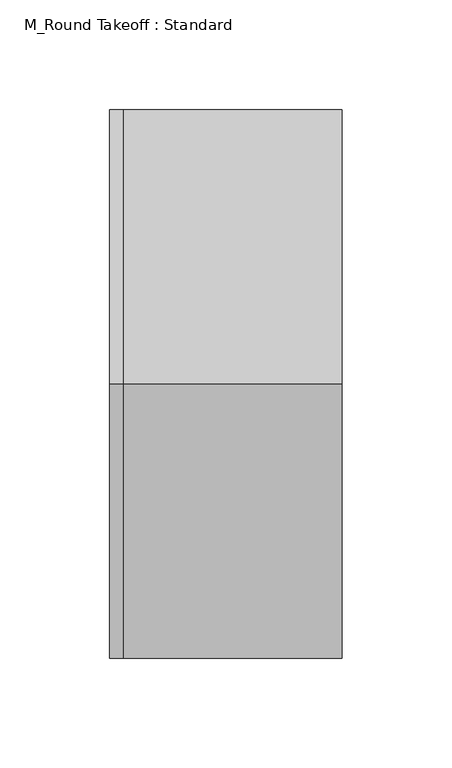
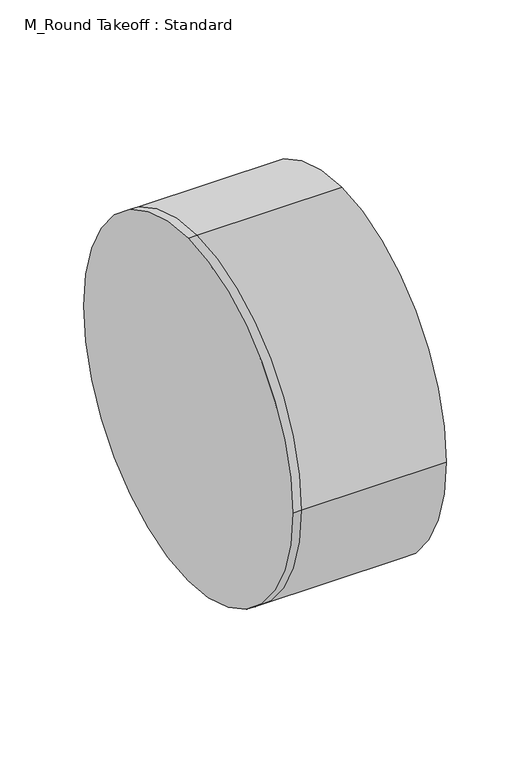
"""IFC4 building model written with IfcOpenShell, lengths in millimetres: duct fitting geometry, M_Round Takeoff : Standard."""

from ifc_helpers import new_model, si_unit, frame, origin, place, context, project, spatial, circle_curve, source, transform, mapped, element, save
from ifc_brep_helpers import plane_surface, cylinder_surface, advanced_brep


def m_round_takeoff_standard_e5a0bf09(model_context):
    return source(origin(), model_context, "Body", "AdvancedBrep", [
        advanced_brep(
        [(-6.0966674, 0.0, 125.0), (-6.0966674, 125.0, 0.0), (-6.0966674, 0.0, -125.0), (-6.0966674, -125.0, 0.0), (0.0, 0.0, 125.0), (0.0, 125.0, 0.0), (0.0, 0.0, -125.0), (0.0, -125.0, 0.0), (100.0006674, 0.0, 125.0), (100.0006674, -125.0, 0.0), (100.0006674, 0.0, -125.0), (100.0006674, 125.0, 0.0)],
        [
            (0, 1, circle_curve(frame((-6.0966674, 0.0, 0.0), z_axis=(-1.0, 0.0, 0.0), x_axis=(0.0, 1.0, 0.0)), 125.0)),
            (1, 2, circle_curve(frame((-6.0966674, 0.0, 0.0), z_axis=(-1.0, 0.0, 0.0), x_axis=(0.0, 1.0, 0.0)), 125.0)),
            (2, 3, circle_curve(frame((-6.0966674, 0.0, 0.0), z_axis=(-1.0, 0.0, 0.0), x_axis=(0.0, 1.0, 0.0)), 125.0)),
            (3, 0, circle_curve(frame((-6.0966674, 0.0, 0.0), z_axis=(-1.0, 0.0, 0.0), x_axis=(0.0, 1.0, 0.0)), 125.0)),
            (0, 4),
            (4, 5, circle_curve(frame((0.0, 0.0, 0.0), z_axis=(-1.0, 0.0, 0.0), x_axis=(0.0, 1.0, 0.0)), 125.0)),
            (5, 1),
            (5, 6, circle_curve(frame((0.0, 0.0, 0.0), z_axis=(-1.0, 0.0, 0.0), x_axis=(0.0, 1.0, 0.0)), 125.0)),
            (6, 2),
            (6, 7, circle_curve(frame((0.0, 0.0, 0.0), z_axis=(-1.0, 0.0, 0.0), x_axis=(0.0, 1.0, 0.0)), 125.0)),
            (7, 3),
            (7, 4, circle_curve(frame((0.0, 0.0, 0.0), z_axis=(-1.0, 0.0, 0.0), x_axis=(0.0, 1.0, 0.0)), 125.0)),
            (8, 9, circle_curve(frame((100.0006674, 0.0, 0.0), z_axis=(1.0, 0.0, 0.0), x_axis=(0.0, 1.0, 0.0)), 125.0)),
            (9, 10, circle_curve(frame((100.0006674, 0.0, 0.0), z_axis=(1.0, 0.0, 0.0), x_axis=(0.0, 1.0, 0.0)), 125.0)),
            (10, 11, circle_curve(frame((100.0006674, 0.0, 0.0), z_axis=(1.0, 0.0, 0.0), x_axis=(0.0, 1.0, 0.0)), 125.0)),
            (11, 8, circle_curve(frame((100.0006674, 0.0, 0.0), z_axis=(1.0, 0.0, 0.0), x_axis=(0.0, 1.0, 0.0)), 125.0)),
            (11, 5),
            (4, 8),
            (10, 6),
            (9, 7),
        ],
        [
            plane_surface(frame((-6.0966674, 0.0, 0.0), z_axis=(-1.0, 0.0, 0.0), x_axis=(0.0, 0.0, 1.0))),
            cylinder_surface(frame((-6.0966674, 0.0, 0.0), z_axis=(-1.0, 0.0, 0.0), x_axis=(0.0, 1.0, 0.0)), 125.0),
            plane_surface(frame((100.0006674, 0.0, 0.0), z_axis=(1.0, 0.0, 0.0), x_axis=(0.0, 0.0, 1.0))),
            cylinder_surface(frame((0.0, 0.0, 0.0), z_axis=(-1.0, 0.0, 0.0), x_axis=(0.0, 1.0, 0.0)), 125.0),
        ],
        [
            (0, [[1, 2, 3, 4]]),
            (1, [[-1, 5, 6, 7]]),
            (1, [[-2, -7, 8, 9]]),
            (1, [[-3, -9, 10, 11]]),
            (1, [[-4, -11, 12, -5]]),
            (2, [[13, 14, 15, 16]]),
            (3, [[-16, 17, -6, 18]]),
            (3, [[-15, 19, -8, -17]]),
            (3, [[-14, 20, -10, -19]]),
            (3, [[-13, -18, -12, -20]]),
        ],
    ),
        advanced_brep(
        [(100.0006674, 0.0, 125.0), (100.0006674, -125.0, 0.0), (100.0006674, 0.0, -125.0), (100.0006674, 125.0, 0.0), (0.0, 125.0, 0.0), (0.0, 0.0, 125.0), (0.0, 0.0, -125.0), (0.0, -125.0, 0.0), (-6.0966674, 0.0, 125.0), (-6.0966674, 125.0, 0.0), (-6.0966674, 0.0, -125.0), (-6.0966674, -125.0, 0.0)],
        [
            (0, 1, circle_curve(frame((100.0006674, 0.0, 0.0), z_axis=(1.0, 0.0, 0.0), x_axis=(0.0, 1.0, 0.0)), 125.0)),
            (1, 2, circle_curve(frame((100.0006674, 0.0, 0.0), z_axis=(1.0, 0.0, 0.0), x_axis=(0.0, 1.0, 0.0)), 125.0)),
            (2, 3, circle_curve(frame((100.0006674, 0.0, 0.0), z_axis=(1.0, 0.0, 0.0), x_axis=(0.0, 1.0, 0.0)), 125.0)),
            (3, 0, circle_curve(frame((100.0006674, 0.0, 0.0), z_axis=(1.0, 0.0, 0.0), x_axis=(0.0, 1.0, 0.0)), 125.0)),
            (3, 4),
            (4, 5, circle_curve(frame((0.0, 0.0, 0.0), z_axis=(1.0, 0.0, 0.0), x_axis=(0.0, 1.0, 0.0)), 125.0)),
            (5, 0),
            (2, 6),
            (6, 4, circle_curve(frame((0.0, 0.0, 0.0), z_axis=(1.0, 0.0, 0.0), x_axis=(0.0, 1.0, 0.0)), 125.0)),
            (1, 7),
            (7, 6, circle_curve(frame((0.0, 0.0, 0.0), z_axis=(1.0, 0.0, 0.0), x_axis=(0.0, 1.0, 0.0)), 125.0)),
            (5, 7, circle_curve(frame((0.0, 0.0, 0.0), z_axis=(1.0, 0.0, 0.0), x_axis=(0.0, 1.0, 0.0)), 125.0)),
            (8, 9, circle_curve(frame((-6.0966674, 0.0, 0.0), z_axis=(-1.0, 0.0, 0.0), x_axis=(0.0, 1.0, 0.0)), 125.0)),
            (9, 10, circle_curve(frame((-6.0966674, 0.0, 0.0), z_axis=(-1.0, 0.0, 0.0), x_axis=(0.0, 1.0, 0.0)), 125.0)),
            (10, 11, circle_curve(frame((-6.0966674, 0.0, 0.0), z_axis=(-1.0, 0.0, 0.0), x_axis=(0.0, 1.0, 0.0)), 125.0)),
            (11, 8, circle_curve(frame((-6.0966674, 0.0, 0.0), z_axis=(-1.0, 0.0, 0.0), x_axis=(0.0, 1.0, 0.0)), 125.0)),
            (8, 5),
            (4, 9),
            (6, 10),
            (7, 11),
        ],
        [
            plane_surface(frame((100.0006674, 0.0, 0.0), z_axis=(1.0, 0.0, 0.0), x_axis=(0.0, 0.0, 1.0))),
            cylinder_surface(frame((0.0, 0.0, 0.0), z_axis=(-1.0, 0.0, 0.0), x_axis=(0.0, 1.0, 0.0)), 125.0),
            plane_surface(frame((-6.0966674, 0.0, 0.0), z_axis=(-1.0, 0.0, 0.0), x_axis=(0.0, 0.0, 1.0))),
            cylinder_surface(frame((-6.0966674, 0.0, 0.0), z_axis=(-1.0, 0.0, 0.0), x_axis=(0.0, 1.0, 0.0)), 125.0),
        ],
        [
            (0, [[1, 2, 3, 4]]),
            (1, [[-4, 5, 6, 7]]),
            (1, [[-3, 8, 9, -5]]),
            (1, [[-2, 10, 11, -8]]),
            (1, [[-1, -7, 12, -10]]),
            (2, [[13, 14, 15, 16]]),
            (3, [[-13, 17, -6, 18]]),
            (3, [[-14, -18, -9, 19]]),
            (3, [[-15, -19, -11, 20]]),
            (3, [[-16, -20, -12, -17]]),
        ],
    ),
        advanced_brep(
        [(-6.0966674, 0.0, 125.0), (-6.0966674, 125.0, 0.0), (-6.0966674, 0.0, -125.0), (-6.0966674, -125.0, 0.0), (0.0, 0.0, 125.0), (0.0, 125.0, 0.0), (0.0, 0.0, -125.0), (0.0, -125.0, 0.0), (100.0006674, 0.0, 125.0), (100.0006674, -125.0, 0.0), (100.0006674, 0.0, -125.0), (100.0006674, 125.0, 0.0)],
        [
            (0, 1, circle_curve(frame((-6.0966674, 0.0, 0.0), z_axis=(-1.0, 0.0, 0.0), x_axis=(0.0, 1.0, 0.0)), 125.0)),
            (1, 2, circle_curve(frame((-6.0966674, 0.0, 0.0), z_axis=(-1.0, 0.0, 0.0), x_axis=(0.0, 1.0, 0.0)), 125.0)),
            (2, 3, circle_curve(frame((-6.0966674, 0.0, 0.0), z_axis=(-1.0, 0.0, 0.0), x_axis=(0.0, 1.0, 0.0)), 125.0)),
            (3, 0, circle_curve(frame((-6.0966674, 0.0, 0.0), z_axis=(-1.0, 0.0, 0.0), x_axis=(0.0, 1.0, 0.0)), 125.0)),
            (0, 4),
            (4, 5, circle_curve(frame((0.0, 0.0, 0.0), z_axis=(-1.0, 0.0, 0.0), x_axis=(0.0, 1.0, 0.0)), 125.0)),
            (5, 1),
            (5, 6, circle_curve(frame((0.0, 0.0, 0.0), z_axis=(-1.0, 0.0, 0.0), x_axis=(0.0, 1.0, 0.0)), 125.0)),
            (6, 2),
            (6, 7, circle_curve(frame((0.0, 0.0, 0.0), z_axis=(-1.0, 0.0, 0.0), x_axis=(0.0, 1.0, 0.0)), 125.0)),
            (7, 3),
            (7, 4, circle_curve(frame((0.0, 0.0, 0.0), z_axis=(-1.0, 0.0, 0.0), x_axis=(0.0, 1.0, 0.0)), 125.0)),
            (8, 9, circle_curve(frame((100.0006674, 0.0, 0.0), z_axis=(1.0, 0.0, 0.0), x_axis=(0.0, 1.0, 0.0)), 125.0)),
            (9, 10, circle_curve(frame((100.0006674, 0.0, 0.0), z_axis=(1.0, 0.0, 0.0), x_axis=(0.0, 1.0, 0.0)), 125.0)),
            (10, 11, circle_curve(frame((100.0006674, 0.0, 0.0), z_axis=(1.0, 0.0, 0.0), x_axis=(0.0, 1.0, 0.0)), 125.0)),
            (11, 8, circle_curve(frame((100.0006674, 0.0, 0.0), z_axis=(1.0, 0.0, 0.0), x_axis=(0.0, 1.0, 0.0)), 125.0)),
            (11, 5),
            (4, 8),
            (10, 6),
            (9, 7),
        ],
        [
            plane_surface(frame((-6.0966674, 0.0, 0.0), z_axis=(-1.0, 0.0, 0.0), x_axis=(0.0, 0.0, 1.0))),
            cylinder_surface(frame((-6.0966674, 0.0, 0.0), z_axis=(-1.0, 0.0, 0.0), x_axis=(0.0, 1.0, 0.0)), 125.0),
            plane_surface(frame((100.0006674, 0.0, 0.0), z_axis=(1.0, 0.0, 0.0), x_axis=(0.0, 0.0, 1.0))),
            cylinder_surface(frame((0.0, 0.0, 0.0), z_axis=(-1.0, 0.0, 0.0), x_axis=(0.0, 1.0, 0.0)), 125.0),
        ],
        [
            (0, [[1, 2, 3, 4]]),
            (1, [[-1, 5, 6, 7]]),
            (1, [[-2, -7, 8, 9]]),
            (1, [[-3, -9, 10, 11]]),
            (1, [[-4, -11, 12, -5]]),
            (2, [[13, 14, 15, 16]]),
            (3, [[-16, 17, -6, 18]]),
            (3, [[-15, 19, -8, -17]]),
            (3, [[-14, 20, -10, -19]]),
            (3, [[-13, -18, -12, -20]]),
        ],
    ),
    ])


if __name__ == "__main__":
    model = new_model("IFC4")
    model_context = context("Model", 3, world=origin())
    ifc_project = project(units=[si_unit("LENGTHUNIT", "METRE", prefix="MILLI")], contexts=[model_context])
    site = spatial("IfcSite", under=ifc_project)
    building = spatial("IfcBuilding", under=site)
    placement = place(None, origin())
    m_round_takeoff_standard_shape = m_round_takeoff_standard_e5a0bf09(model_context)
    element("IfcDuctFitting", 1, ObjectType="M_Round Takeoff : Standard", at=placement, inside=building, context=model_context, shape_type="MappedRepresentation", body=[
        mapped(m_round_takeoff_standard_shape, transform((0.0, 0.0, 0.0), x_axis=(1.0, 0.0, 0.0), y_axis=(0.0, 1.0, 0.0), z_axis=(0.0, 0.0, 1.0))),
    ])
    save(model, "model.ifc")
